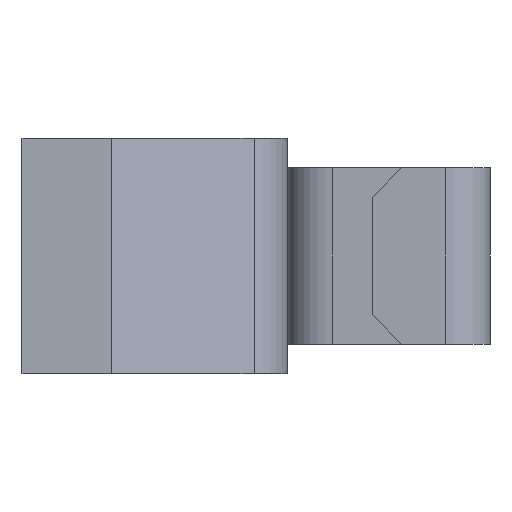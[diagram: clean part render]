
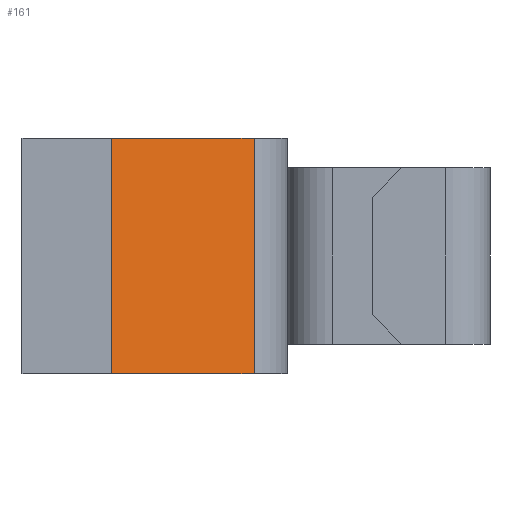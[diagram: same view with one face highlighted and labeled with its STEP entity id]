
A CAD part, left-side view. The second image highlights one B-rep face of the part: STEP entity #161.
In plain terms, the highlighted planar face has unit normal (-0.904, -0.427, 0).
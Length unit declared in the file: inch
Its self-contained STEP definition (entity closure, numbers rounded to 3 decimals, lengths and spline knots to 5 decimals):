
#161 = ADVANCED_FACE ( 'NONE', ( #1323 ), #590, .T. ) ;
#321 = ORIENTED_EDGE ( 'NONE', *, *, #1747, .F. ) ;
#322 = ORIENTED_EDGE ( 'NONE', *, *, #1742, .F. ) ;
#323 = ORIENTED_EDGE ( 'NONE', *, *, #1745, .T. ) ;
#324 = ORIENTED_EDGE ( 'NONE', *, *, #1746, .T. ) ;
#444 = EDGE_LOOP ( 'NONE', ( #324, #323, #322, #321 ) ) ;
#528 = VERTEX_POINT ( 'NONE', #545 ) ;
#532 = VERTEX_POINT ( 'NONE', #543 ) ;
#536 = VERTEX_POINT ( 'NONE', #542 ) ;
#540 = VERTEX_POINT ( 'NONE', #541 ) ;
#541 = CARTESIAN_POINT ( 'NONE',  ( -5.345, 0.37, -1. ) ) ;
#542 = CARTESIAN_POINT ( 'NONE',  ( -5.05843, -0.23677, -1. ) ) ;
#543 = CARTESIAN_POINT ( 'NONE',  ( -5.05843, -0.23677, 0. ) ) ;
#545 = CARTESIAN_POINT ( 'NONE',  ( -5.345, 0.37, 0. ) ) ;
#590 = PLANE ( 'NONE',  #1612 ) ;
#610 = DIRECTION ( 'NONE',  ( 0.427, -0.904, 0. ) ) ;
#611 = DIRECTION ( 'NONE',  ( -0.904, -0.427, 0. ) ) ;
#615 = CARTESIAN_POINT ( 'NONE',  ( -5.345, 0.37, -1. ) ) ;
#898 = CARTESIAN_POINT ( 'NONE',  ( -5.345, 0.37, 0. ) ) ;
#899 = DIRECTION ( 'NONE',  ( 0.427, -0.904, 0. ) ) ;
#902 = CARTESIAN_POINT ( 'NONE',  ( -5.05843, -0.23677, -1. ) ) ;
#904 = CARTESIAN_POINT ( 'NONE',  ( -5.345, 0.37, -1. ) ) ;
#905 = DIRECTION ( 'NONE',  ( 0., 0., 1. ) ) ;
#907 = DIRECTION ( 'NONE',  ( 0.427, -0.904, 0. ) ) ;
#908 = CARTESIAN_POINT ( 'NONE',  ( -5.345, 0.37, -1. ) ) ;
#909 = DIRECTION ( 'NONE',  ( 0., 0., 1. ) ) ;
#1323 = FACE_OUTER_BOUND ( 'NONE', #444, .T. ) ;
#1498 = VECTOR ( 'NONE', #909, 39.37008 ) ;
#1499 = LINE ( 'NONE', #908, #1498 ) ;
#1501 = VECTOR ( 'NONE', #907, 39.37008 ) ;
#1503 = VECTOR ( 'NONE', #905, 39.37008 ) ;
#1512 = VECTOR ( 'NONE', #899, 39.37008 ) ;
#1513 = LINE ( 'NONE', #902, #1503 ) ;
#1527 = LINE ( 'NONE', #898, #1512 ) ;
#1533 = LINE ( 'NONE', #904, #1501 ) ;
#1612 = AXIS2_PLACEMENT_3D ( 'NONE', #615, #611, #610 ) ;
#1742 = EDGE_CURVE ( 'NONE', #528, #532, #1527, .T. ) ;
#1745 = EDGE_CURVE ( 'NONE', #536, #532, #1513, .T. ) ;
#1746 = EDGE_CURVE ( 'NONE', #540, #536, #1533, .T. ) ;
#1747 = EDGE_CURVE ( 'NONE', #540, #528, #1499, .T. ) ;
